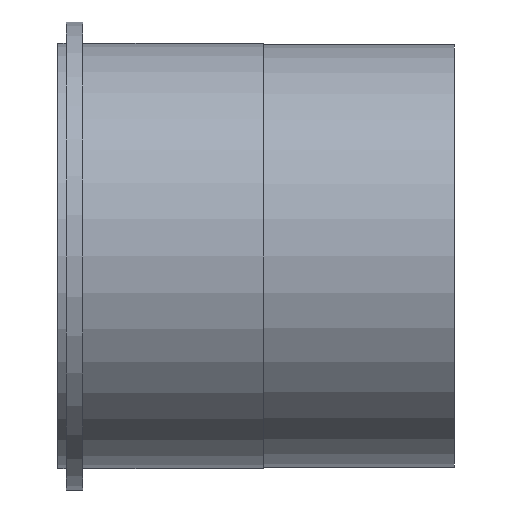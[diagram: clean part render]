
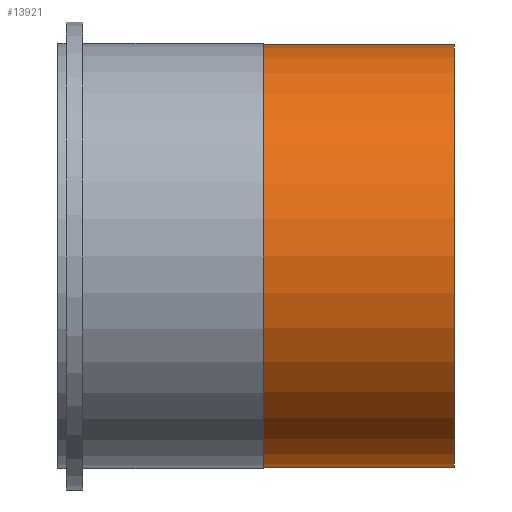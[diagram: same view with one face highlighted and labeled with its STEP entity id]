
A CAD part, front view. The second image highlights one B-rep face of the part: STEP entity #13921.
In plain terms, the highlighted cylindrical face has radius 79.883 mm (diameter 159.766 mm), a full revolution.
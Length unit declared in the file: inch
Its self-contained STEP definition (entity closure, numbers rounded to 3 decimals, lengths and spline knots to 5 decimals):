
#13890=CARTESIAN_POINT('',(3.06,3.145,0.0));
#13891=VERTEX_POINT('',#13890);
#13892=CARTESIAN_POINT('',(3.06,0.0,0.0));
#13893=DIRECTION('',(1.0,0.0,0.0));
#13894=DIRECTION('',(0.0,1.0,0.0));
#13895=AXIS2_PLACEMENT_3D('',#13892,#13893,#13894);
#13896=CIRCLE('',#13895,3.145);
#13897=EDGE_CURVE('',#13891,#13891,#13896,.T.);
#13902=CARTESIAN_POINT('',(4.48276,0.0,0.0));
#13903=DIRECTION('',(1.0,0.0,0.0));
#13904=DIRECTION('',(0.0,1.0,0.0));
#13905=AXIS2_PLACEMENT_3D('',#13902,#13903,#13904);
#13906=CYLINDRICAL_SURFACE('',#13905,3.145);
#13907=CARTESIAN_POINT('',(5.90551,3.145,0.0));
#13908=VERTEX_POINT('',#13907);
#13909=CARTESIAN_POINT('',(5.90551,0.0,0.0));
#13910=DIRECTION('',(1.0,0.0,0.0));
#13911=DIRECTION('',(0.0,1.0,0.0));
#13912=AXIS2_PLACEMENT_3D('',#13909,#13910,#13911);
#13913=CIRCLE('',#13912,3.145);
#13914=EDGE_CURVE('',#13908,#13908,#13913,.T.);
#13915=ORIENTED_EDGE('',*,*,#13914,.F.);
#13916=EDGE_LOOP('',(#13915));
#13917=FACE_OUTER_BOUND('',#13916,.T.);
#13918=ORIENTED_EDGE('',*,*,#13897,.T.);
#13919=EDGE_LOOP('',(#13918));
#13920=FACE_BOUND('',#13919,.T.);
#13921=ADVANCED_FACE('',(#13917,#13920),#13906,.T.);
